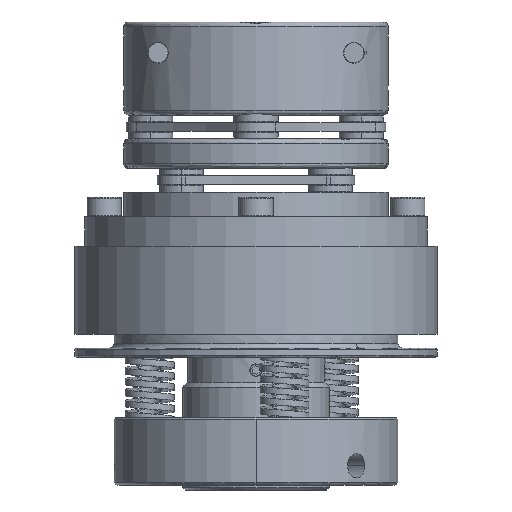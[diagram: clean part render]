
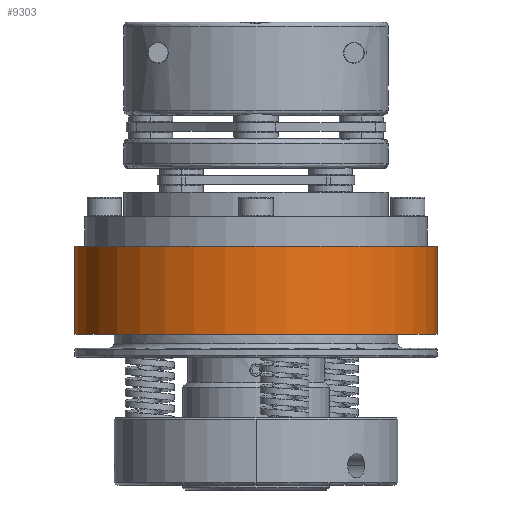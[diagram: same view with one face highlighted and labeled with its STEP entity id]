
A CAD part, front view. The second image highlights one B-rep face of the part: STEP entity #9303.
In plain terms, the highlighted cylindrical face has radius 37 mm (diameter 74 mm), a partial arc.
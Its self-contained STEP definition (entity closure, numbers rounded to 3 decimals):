
#25 = CARTESIAN_POINT ( 'NONE',  ( -37.42, 0.175, 17.801 ) ) ;
#52 = LINE ( 'NONE', #47632, #55225 ) ;
#939 = VERTEX_POINT ( 'NONE', #23108 ) ;
#1679 = EDGE_CURVE ( 'NONE', #939, #8746, #9630, .T. ) ;
#2413 = AXIS2_PLACEMENT_3D ( 'NONE', #27540, #40493, #9649 ) ;
#2581 = DIRECTION ( 'NONE',  ( 0., 0., -1. ) ) ;
#4607 = DIRECTION ( 'NONE',  ( 1., 0., 0. ) ) ;
#8349 = DIRECTION ( 'NONE',  ( 0., 0., 1. ) ) ;
#8746 = VERTEX_POINT ( 'NONE', #27048 ) ;
#9303 = ADVANCED_FACE ( 'NONE', ( #42889 ), #55667, .T. ) ;
#9630 = LINE ( 'NONE', #10395, #55378 ) ;
#9649 = DIRECTION ( 'NONE',  ( 1., 0., 0. ) ) ;
#10251 = EDGE_CURVE ( 'NONE', #12836, #939, #12584, .T. ) ;
#10395 = CARTESIAN_POINT ( 'NONE',  ( 36.58, 0.175, 28.801 ) ) ;
#11500 = EDGE_CURVE ( 'NONE', #8746, #39269, #43607, .T. ) ;
#12584 = CIRCLE ( 'NONE', #48552, 37. ) ;
#12836 = VERTEX_POINT ( 'NONE', #43770 ) ;
#23108 = CARTESIAN_POINT ( 'NONE',  ( 36.58, 0.175, -0.199 ) ) ;
#26806 = ORIENTED_EDGE ( 'NONE', *, *, #11500, .T. ) ;
#27048 = CARTESIAN_POINT ( 'NONE',  ( 36.58, 0.175, 17.801 ) ) ;
#27540 = CARTESIAN_POINT ( 'NONE',  ( -0.42, 0.175, 28.801 ) ) ;
#28766 = CARTESIAN_POINT ( 'NONE',  ( -0.42, 0.175, 17.801 ) ) ;
#35878 = EDGE_LOOP ( 'NONE', ( #54828, #50086, #41061, #26806 ) ) ;
#38704 = DIRECTION ( 'NONE',  ( 0., 0., 1. ) ) ;
#39269 = VERTEX_POINT ( 'NONE', #25 ) ;
#40493 = DIRECTION ( 'NONE',  ( 0., 0., 1. ) ) ;
#41061 = ORIENTED_EDGE ( 'NONE', *, *, #1679, .T. ) ;
#42889 = FACE_OUTER_BOUND ( 'NONE', #35878, .T. ) ;
#43607 = CIRCLE ( 'NONE', #53660, 37. ) ;
#43770 = CARTESIAN_POINT ( 'NONE',  ( -37.42, 0.175, -0.199 ) ) ;
#47632 = CARTESIAN_POINT ( 'NONE',  ( -37.42, 0.175, 28.801 ) ) ;
#48552 = AXIS2_PLACEMENT_3D ( 'NONE', #51073, #38704, #4607 ) ;
#48742 = DIRECTION ( 'NONE',  ( 0., 0., 1. ) ) ;
#49965 = EDGE_CURVE ( 'NONE', #12836, #39269, #52, .T. ) ;
#50086 = ORIENTED_EDGE ( 'NONE', *, *, #10251, .T. ) ;
#51073 = CARTESIAN_POINT ( 'NONE',  ( -0.42, 0.175, -0.199 ) ) ;
#53660 = AXIS2_PLACEMENT_3D ( 'NONE', #28766, #2581, #54489 ) ;
#54489 = DIRECTION ( 'NONE',  ( 1., 0., 0. ) ) ;
#54828 = ORIENTED_EDGE ( 'NONE', *, *, #49965, .F. ) ;
#55225 = VECTOR ( 'NONE', #8349, 1000. ) ;
#55378 = VECTOR ( 'NONE', #48742, 1000. ) ;
#55667 = CYLINDRICAL_SURFACE ( 'NONE', #2413, 37. ) ;
